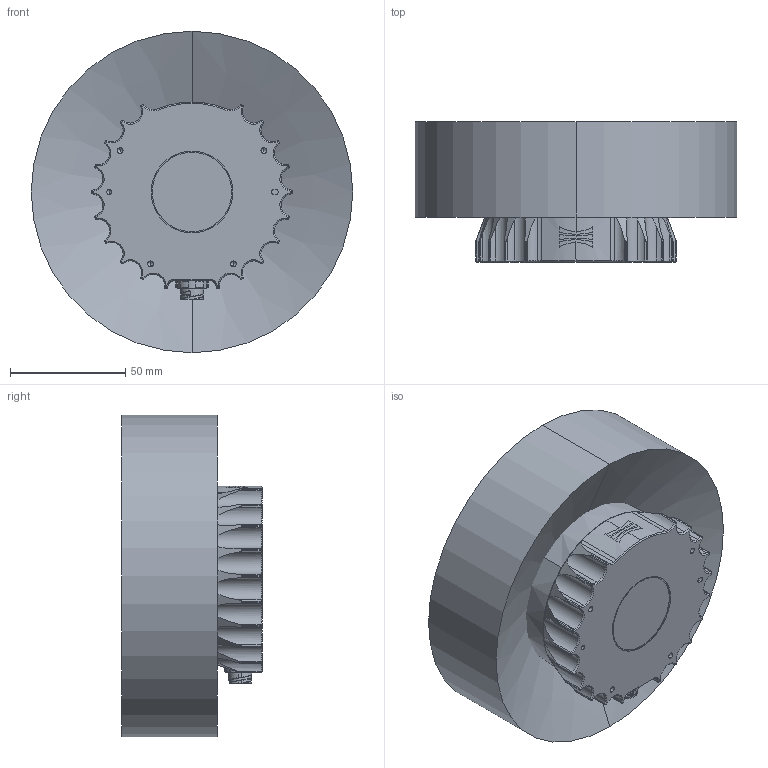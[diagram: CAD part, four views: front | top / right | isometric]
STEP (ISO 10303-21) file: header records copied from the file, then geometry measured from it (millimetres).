
FILE_DESCRIPTION (( 'STEP AP214' ), '1' );
FILE_NAME ('700-108702-Rev 8.0 OS Exterior Spec-OS1 XX_04-30-2026A.STEP', '2026-04-30T19:01:18', ( '' ), ( '' ), 'SwSTEP 2.0', 'SolidWorks 2022', '' );
FILE_SCHEMA (( 'AUTOMOTIVE_DESIGN' ));
Length unit declared in the file: millimetre
Products named in the file (1): 700-108702-Rev 8.0 OS Exterior Spec-OS1 XX_04-30-2026A
Bounding box: 139.52 x 60.94 x 139.52 mm (x, y, z)
Volume: 623521.5 mm3; surface area: 77140 mm2
Topology: 3 solids, 3 shells, 614 faces, 1748 edges, 1058 vertices
Faces by surface type: bspline 239, cylinder 162, cone 146, plane 67
Entity records: 46434 total; most frequent: CARTESIAN_POINT 26533, ORIENTED_EDGE 3372, DIRECTION 1882, EDGE_CURVE 1686, VERTEX_POINT 1058, B_SPLINE_CURVE_WITH_KNOTS 815, AXIS2_PLACEMENT_3D 759, EDGE_LOOP 648
